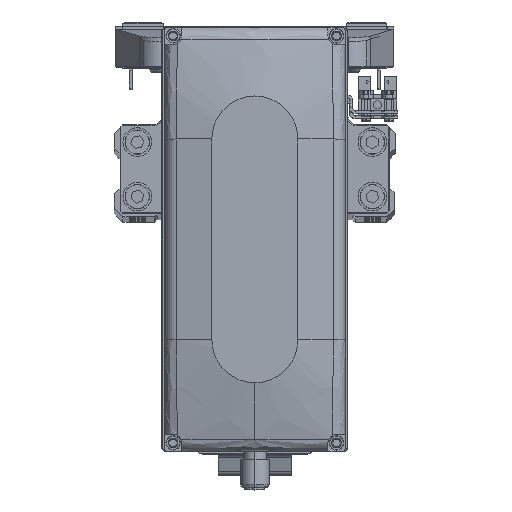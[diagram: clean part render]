
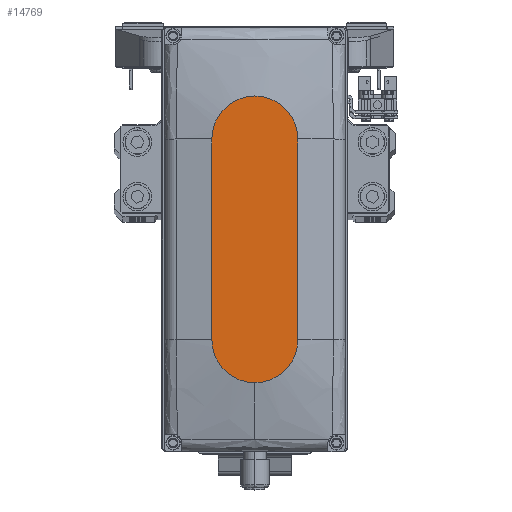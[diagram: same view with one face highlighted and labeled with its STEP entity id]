
A CAD part, top view. The second image highlights one B-rep face of the part: STEP entity #14769.
In plain terms, the highlighted planar face has unit normal (0, 0, 1).
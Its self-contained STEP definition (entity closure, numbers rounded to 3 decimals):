
#645 = AXIS2_PLACEMENT_3D ( 'NONE', #3715, #18767, #33797 ) ;
#1427 = CIRCLE ( 'NONE', #29031, 15. ) ;
#3324 = EDGE_CURVE ( 'NONE', #48547, #3946, #38493, .T. ) ;
#3715 = CARTESIAN_POINT ( 'NONE',  ( -35., 0., 35. ) ) ;
#3946 = VERTEX_POINT ( 'NONE', #25526 ) ;
#4697 = CARTESIAN_POINT ( 'NONE',  ( -35., -15., 35. ) ) ;
#5169 = EDGE_CURVE ( 'NONE', #21533, #11961, #32019, .T. ) ;
#5405 = CARTESIAN_POINT ( 'NONE',  ( 0., 0., 35. ) ) ;
#5916 = EDGE_LOOP ( 'NONE', ( #11527, #31224, #7365, #35797, #16766 ) ) ;
#7365 = ORIENTED_EDGE ( 'NONE', *, *, #3324, .T. ) ;
#9076 = CARTESIAN_POINT ( 'NONE',  ( 50., 0., 35. ) ) ;
#10554 = DIRECTION ( 'NONE',  ( 0., 0., 1. ) ) ;
#11527 = ORIENTED_EDGE ( 'NONE', *, *, #5169, .T. ) ;
#11961 = VERTEX_POINT ( 'NONE', #40232 ) ;
#13272 = DIRECTION ( 'NONE',  ( -1., 0., 0. ) ) ;
#13837 = CIRCLE ( 'NONE', #41407, 15. ) ;
#14769 = ADVANCED_FACE ( 'NONE', ( #24163 ), #39195, .T. ) ;
#15617 = CIRCLE ( 'NONE', #645, 15. ) ;
#16766 = ORIENTED_EDGE ( 'NONE', *, *, #19996, .T. ) ;
#16790 = CARTESIAN_POINT ( 'NONE',  ( 35., 0., 35. ) ) ;
#18287 = VERTEX_POINT ( 'NONE', #9076 ) ;
#18750 = CARTESIAN_POINT ( 'NONE',  ( 35., 15., 35. ) ) ;
#18767 = DIRECTION ( 'NONE',  ( 0., 0., 1. ) ) ;
#19745 = DIRECTION ( 'NONE',  ( 1., 0., 0. ) ) ;
#19996 = EDGE_CURVE ( 'NONE', #18287, #21533, #13837, .T. ) ;
#20455 = DIRECTION ( 'NONE',  ( 0., 0., 1. ) ) ;
#21533 = VERTEX_POINT ( 'NONE', #18750 ) ;
#24163 = FACE_OUTER_BOUND ( 'NONE', #5916, .T. ) ;
#24221 = EDGE_CURVE ( 'NONE', #11961, #48547, #15617, .T. ) ;
#25526 = CARTESIAN_POINT ( 'NONE',  ( 35., -15., 35. ) ) ;
#25604 = DIRECTION ( 'NONE',  ( 1., 0., 0. ) ) ;
#25936 = CARTESIAN_POINT ( 'NONE',  ( -35., -15., 35. ) ) ;
#29031 = AXIS2_PLACEMENT_3D ( 'NONE', #44359, #10554, #25604 ) ;
#31224 = ORIENTED_EDGE ( 'NONE', *, *, #24221, .T. ) ;
#31840 = DIRECTION ( 'NONE',  ( 0., 0., 1. ) ) ;
#32019 = LINE ( 'NONE', #47081, #36730 ) ;
#33797 = DIRECTION ( 'NONE',  ( 1., 0., 0. ) ) ;
#35502 = DIRECTION ( 'NONE',  ( 1., 0., 0. ) ) ;
#35797 = ORIENTED_EDGE ( 'NONE', *, *, #42059, .T. ) ;
#36730 = VECTOR ( 'NONE', #13272, 1000. ) ;
#38493 = LINE ( 'NONE', #4697, #47492 ) ;
#39195 = PLANE ( 'NONE',  #41749 ) ;
#40232 = CARTESIAN_POINT ( 'NONE',  ( -35., 15., 35. ) ) ;
#41407 = AXIS2_PLACEMENT_3D ( 'NONE', #16790, #31840, #46892 ) ;
#41749 = AXIS2_PLACEMENT_3D ( 'NONE', #5405, #20455, #35502 ) ;
#42059 = EDGE_CURVE ( 'NONE', #3946, #18287, #1427, .T. ) ;
#44359 = CARTESIAN_POINT ( 'NONE',  ( 35., 0., 35. ) ) ;
#46892 = DIRECTION ( 'NONE',  ( 1., 0., 0. ) ) ;
#47081 = CARTESIAN_POINT ( 'NONE',  ( -35., 15., 35. ) ) ;
#47492 = VECTOR ( 'NONE', #19745, 1000. ) ;
#48547 = VERTEX_POINT ( 'NONE', #25936 ) ;
